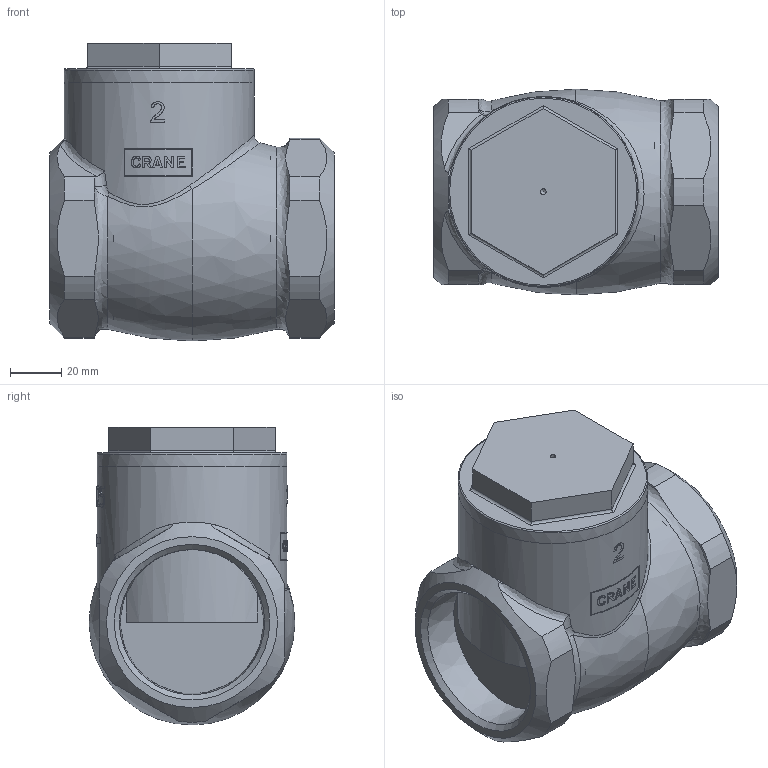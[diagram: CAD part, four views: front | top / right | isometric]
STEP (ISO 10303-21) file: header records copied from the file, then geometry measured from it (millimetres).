
FILE_DESCRIPTION((''),'2;1');
FILE_NAME('P:\Fastrack\53972_CRANE 3D\D142-138\Workspace\Check Valves\D138_2in\D138_2in.stp','2011-03-03T10:29:23',('btaylor'),(''),'Autodesk Inventor 2008','Autodesk Inventor 2008','');
FILE_SCHEMA(('AUTOMOTIVE_DESIGN { 1 0 10303 214 1 1 1 1 }'));
Length unit declared in the file: millimetre
Products named in the file (1): D138_2in
Bounding box: 110.5 x 79.98 x 115.9 mm (x, y, z)
Volume: 501168.6 mm3; surface area: 65202.6 mm2
Topology: 1 solids, 2 shells, 423 faces, 1152 edges, 764 vertices
Faces by surface type: bspline 217, plane 135, cylinder 51, cone 19, torus 1
Full cylindrical faces by diameter (mm): 73.8 x2
Entity records: 55132 total; most frequent: CARTESIAN_POINT 45757, ORIENTED_EDGE 2262, EDGE_CURVE 1131, DIRECTION 1130, VERTEX_POINT 756, B_SPLINE_CURVE_WITH_KNOTS 540, EDGE_LOOP 467, STYLED_ITEM 424
